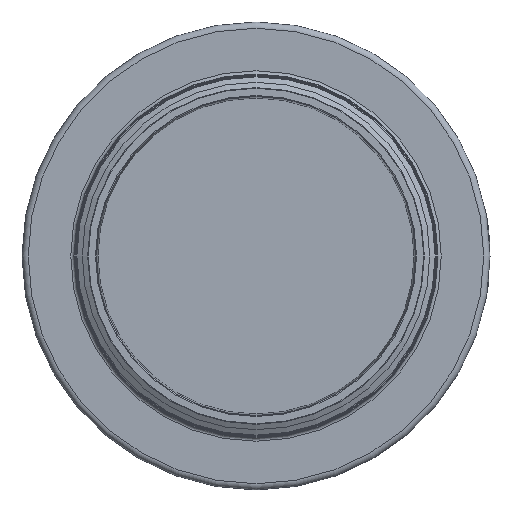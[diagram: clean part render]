
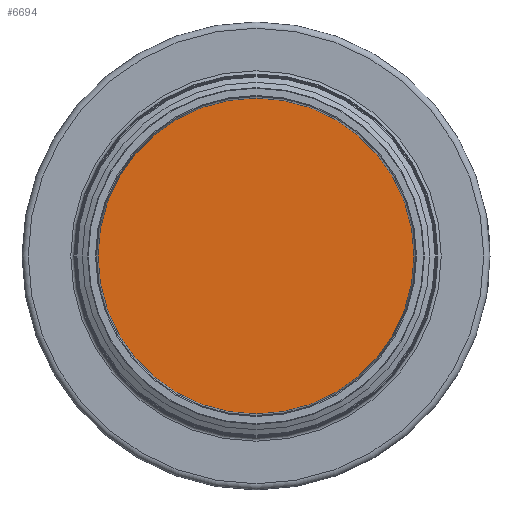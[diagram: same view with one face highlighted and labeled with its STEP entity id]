
A CAD part, left-side view. The second image highlights one B-rep face of the part: STEP entity #6694.
In plain terms, the highlighted planar face has unit normal (-1, 0, 0).
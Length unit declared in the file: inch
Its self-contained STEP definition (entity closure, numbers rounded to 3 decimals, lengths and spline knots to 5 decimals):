
#859=PLANE('',#7176);
#2140=ORIENTED_EDGE('',*,*,#2151,.T.);
#2151=EDGE_CURVE('',#2775,#2775,#3224,.F.);
#2775=VERTEX_POINT('',#8375);
#3224=CIRCLE('',#6708,1.51916);
#3817=EDGE_LOOP('',(#2140));
#4234=FACE_BOUND('',#3817,.T.);
#6694=ADVANCED_FACE('',(#4234),#859,.F.);
#6708=AXIS2_PLACEMENT_3D('',#8374,#7192,#7193);
#7176=AXIS2_PLACEMENT_3D('',#11605,#8350,#8351);
#7192=DIRECTION('',(1.,0.,0.));
#7193=DIRECTION('',(0.,0.,-1.));
#8350=DIRECTION('',(1.,0.,0.));
#8351=DIRECTION('',(0.,0.,-1.));
#8374=CARTESIAN_POINT('',(0.20597,0.,0.));
#8375=CARTESIAN_POINT('',(0.20597,0.,-1.51916));
#11605=CARTESIAN_POINT('',(0.20597,0.,1.024));
